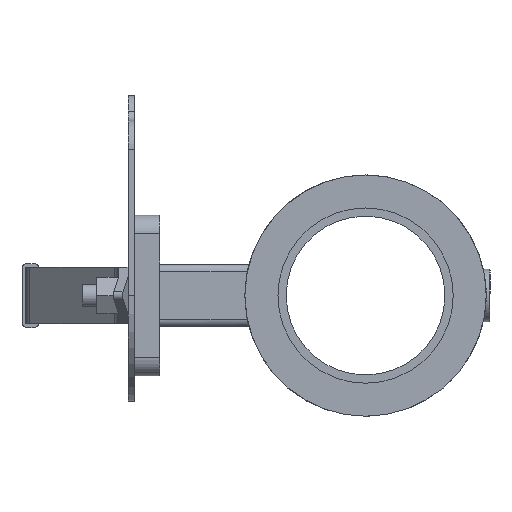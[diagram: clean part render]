
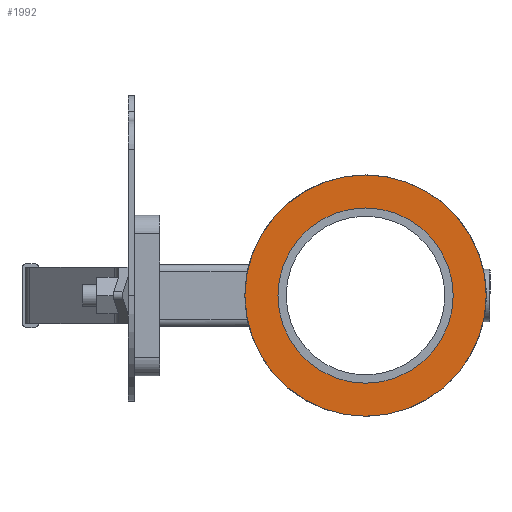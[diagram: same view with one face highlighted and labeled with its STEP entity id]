
A CAD part, left-side view. The second image highlights one B-rep face of the part: STEP entity #1992.
In plain terms, the highlighted planar face has unit normal (-1, 0, 0).
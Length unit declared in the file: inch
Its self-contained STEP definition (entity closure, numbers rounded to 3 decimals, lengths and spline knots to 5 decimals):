
#49=FACE_BOUND('',#278,.T.);
#86=PLANE('',#2252);
#157=FACE_OUTER_BOUND('',#277,.T.);
#277=EDGE_LOOP('',(#1431,#1432));
#278=EDGE_LOOP('',(#1433,#1434));
#674=CIRCLE('',#2174,2.065);
#675=CIRCLE('',#2175,2.065);
#716=CIRCLE('',#2250,1.385);
#717=CIRCLE('',#2251,1.385);
#801=VERTEX_POINT('',#3049);
#802=VERTEX_POINT('',#3051);
#858=VERTEX_POINT('',#3271);
#859=VERTEX_POINT('',#3272);
#982=EDGE_CURVE('',#801,#802,#674,.T.);
#983=EDGE_CURVE('',#802,#801,#675,.T.);
#1068=EDGE_CURVE('',#858,#859,#716,.T.);
#1069=EDGE_CURVE('',#859,#858,#717,.T.);
#1431=ORIENTED_EDGE('',*,*,#983,.F.);
#1432=ORIENTED_EDGE('',*,*,#982,.F.);
#1433=ORIENTED_EDGE('',*,*,#1068,.T.);
#1434=ORIENTED_EDGE('',*,*,#1069,.T.);
#1992=ADVANCED_FACE('',(#157,#49),#86,.T.);
#2174=AXIS2_PLACEMENT_3D('',#3052,#2409,#2410);
#2175=AXIS2_PLACEMENT_3D('',#3053,#2411,#2412);
#2250=AXIS2_PLACEMENT_3D('',#3273,#2601,#2602);
#2251=AXIS2_PLACEMENT_3D('',#3274,#2603,#2604);
#2252=AXIS2_PLACEMENT_3D('',#3276,#2606,#2607);
#2409=DIRECTION('center_axis',(1.,0.,0.));
#2410=DIRECTION('ref_axis',(0.,0.,-1.));
#2411=DIRECTION('center_axis',(1.,0.,0.));
#2412=DIRECTION('ref_axis',(0.,0.,-1.));
#2601=DIRECTION('center_axis',(1.,0.,0.));
#2602=DIRECTION('ref_axis',(0.,0.,-1.));
#2603=DIRECTION('center_axis',(1.,0.,0.));
#2604=DIRECTION('ref_axis',(0.,0.,-1.));
#2606=DIRECTION('center_axis',(-1.,0.,0.));
#2607=DIRECTION('ref_axis',(0.,0.,1.));
#3049=CARTESIAN_POINT('',(-1.39,-2.065,0.));
#3051=CARTESIAN_POINT('',(-1.39,2.065,0.));
#3052=CARTESIAN_POINT('Origin',(-1.39,0.,0.));
#3053=CARTESIAN_POINT('Origin',(-1.39,0.,0.));
#3271=CARTESIAN_POINT('',(-1.39,1.385,0.));
#3272=CARTESIAN_POINT('',(-1.39,-1.385,0.));
#3273=CARTESIAN_POINT('Origin',(-1.39,0.,0.));
#3274=CARTESIAN_POINT('Origin',(-1.39,0.,0.));
#3276=CARTESIAN_POINT('Origin',(-1.39,1.5,0.));
